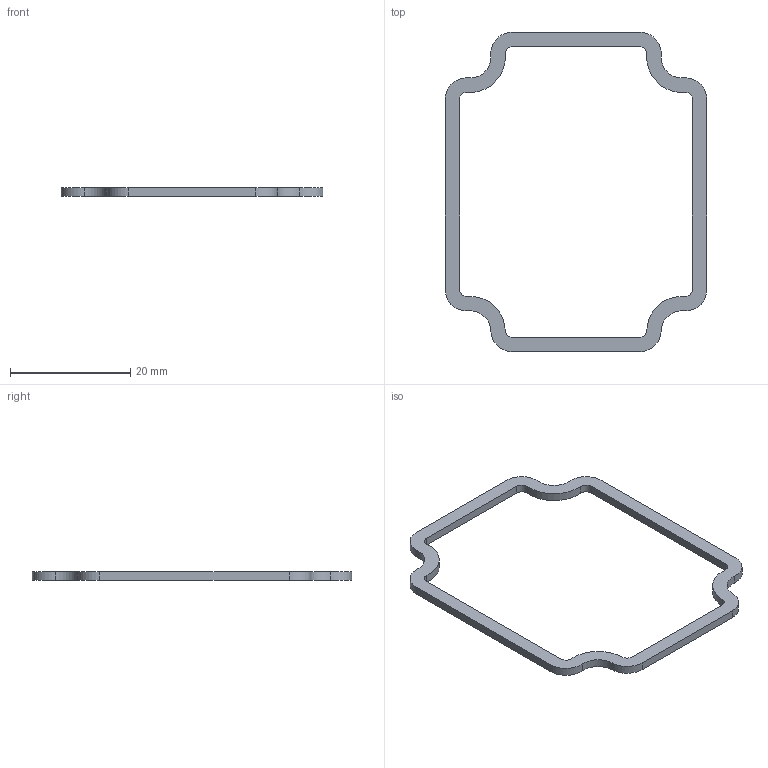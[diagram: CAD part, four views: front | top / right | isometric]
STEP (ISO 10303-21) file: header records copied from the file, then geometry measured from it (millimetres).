
FILE_DESCRIPTION(('Open CASCADE Model'),'2;1');
FILE_NAME('Open CASCADE Shape Model','2026-10-09T15:33:13',('Author'),( 'Open CASCADE'),'Open CASCADE STEP processor 7.9','Open CASCADE 7.9' ,'Unknown');
FILE_SCHEMA(('AUTOMOTIVE_DESIGN { 1 0 10303 214 1 1 1 1 }'));
Length unit declared in the file: millimetre
Products named in the file (1): Open CASCADE STEP translator 7.9 4
Bounding box: 43.6 x 53.2 x 1.4 mm (x, y, z)
Volume: 564.6 mm3; surface area: 1277 mm2
Topology: 1 solids, 1 shells, 34 faces, 96 edges, 64 vertices
Faces by surface type: cylinder 24, plane 10
Entity records: 2534 total; most frequent: CARTESIAN_POINT 675, DIRECTION 358, ORIENTED_EDGE 192, LINE 192, VECTOR 192, PCURVE 192, DEFINITIONAL_REPRESENTATION 192, EDGE_CURVE 96
